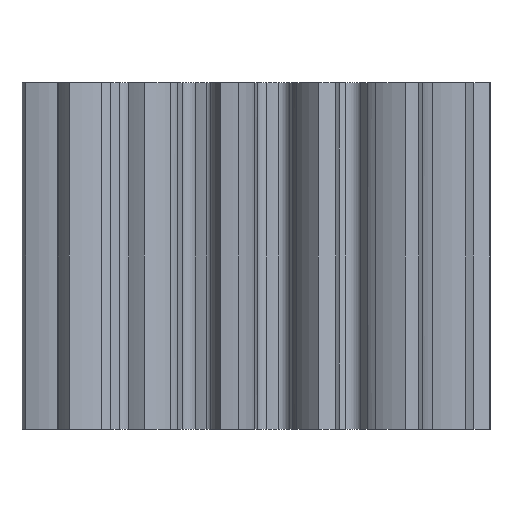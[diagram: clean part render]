
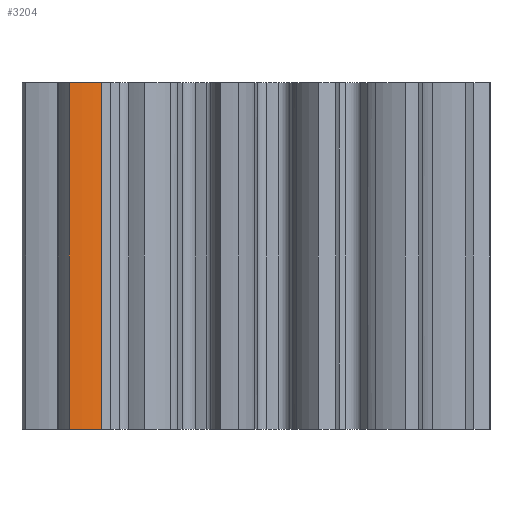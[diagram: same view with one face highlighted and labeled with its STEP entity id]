
A CAD part, front view. The second image highlights one B-rep face of the part: STEP entity #3204.
In plain terms, the highlighted face is a extrusion surface.
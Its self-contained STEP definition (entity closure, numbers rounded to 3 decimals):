
#3177 = VERTEX_POINT('',#3178);
#3178 = CARTESIAN_POINT('',(-2.671,-2.103,5.));
#3185 = EDGE_CURVE('',#3186,#3177,#3188,.T.);
#3186 = VERTEX_POINT('',#3187);
#3187 = CARTESIAN_POINT('',(-2.671,-2.103,0.));
#3188 = LINE('',#3189,#3190);
#3189 = CARTESIAN_POINT('',(-2.671,-2.103,0.));
#3190 = VECTOR('',#3191,1.);
#3191 = DIRECTION('',(0.,0.,1.));
#3204 = ADVANCED_FACE('',(#3205),#3232,.F.);
#3205 = FACE_BOUND('',#3206,.F.);
#3206 = EDGE_LOOP('',(#3207,#3208,#3217,#3225));
#3207 = ORIENTED_EDGE('',*,*,#3185,.T.);
#3208 = ORIENTED_EDGE('',*,*,#3209,.T.);
#3209 = EDGE_CURVE('',#3177,#3210,#3212,.T.);
#3210 = VERTEX_POINT('',#3211);
#3211 = CARTESIAN_POINT('',(-2.21,-1.999,5.));
#3212 = B_SPLINE_CURVE_WITH_KNOTS('',3,(#3213,#3214,#3215,#3216),
  .UNSPECIFIED.,.F.,.F.,(4,4),(0.,1.),.PIECEWISE_BEZIER_KNOTS.);
#3213 = CARTESIAN_POINT('',(-2.671,-2.103,5.));
#3214 = CARTESIAN_POINT('',(-2.459,-2.087,5.));
#3215 = CARTESIAN_POINT('',(-2.308,-2.041,5.));
#3216 = CARTESIAN_POINT('',(-2.21,-1.999,5.));
#3217 = ORIENTED_EDGE('',*,*,#3218,.F.);
#3218 = EDGE_CURVE('',#3219,#3210,#3221,.T.);
#3219 = VERTEX_POINT('',#3220);
#3220 = CARTESIAN_POINT('',(-2.21,-1.999,0.));
#3221 = LINE('',#3222,#3223);
#3222 = CARTESIAN_POINT('',(-2.21,-1.999,0.));
#3223 = VECTOR('',#3224,1.);
#3224 = DIRECTION('',(0.,0.,1.));
#3225 = ORIENTED_EDGE('',*,*,#3226,.F.);
#3226 = EDGE_CURVE('',#3186,#3219,#3227,.T.);
#3227 = B_SPLINE_CURVE_WITH_KNOTS('',3,(#3228,#3229,#3230,#3231),
  .UNSPECIFIED.,.F.,.F.,(4,4),(0.,1.),.PIECEWISE_BEZIER_KNOTS.);
#3228 = CARTESIAN_POINT('',(-2.671,-2.103,0.));
#3229 = CARTESIAN_POINT('',(-2.459,-2.087,0.));
#3230 = CARTESIAN_POINT('',(-2.308,-2.041,0.));
#3231 = CARTESIAN_POINT('',(-2.21,-1.999,0.));
#3232 = SURFACE_OF_LINEAR_EXTRUSION('',#3233,#3238);
#3233 = B_SPLINE_CURVE_WITH_KNOTS('',3,(#3234,#3235,#3236,#3237),
  .UNSPECIFIED.,.F.,.F.,(4,4),(0.,1.),.PIECEWISE_BEZIER_KNOTS.);
#3234 = CARTESIAN_POINT('',(-2.671,-2.103,0.));
#3235 = CARTESIAN_POINT('',(-2.459,-2.087,0.));
#3236 = CARTESIAN_POINT('',(-2.308,-2.041,0.));
#3237 = CARTESIAN_POINT('',(-2.21,-1.999,0.));
#3238 = VECTOR('',#3239,1.);
#3239 = DIRECTION('',(-0.,-0.,-1.));
